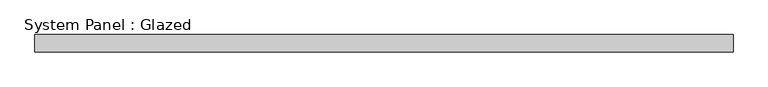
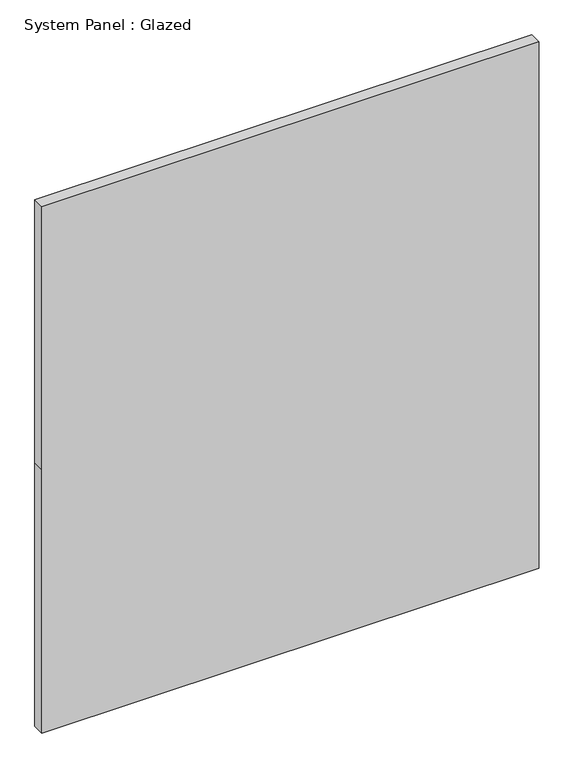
"""IFC4 building model written with IfcOpenShell, lengths in millimetres: plate geometry, System Panel : Glazed."""

from ifc_helpers import new_model, si_unit, frame, origin, place, context, project, spatial, polyline, outline, extrude, source, transform, mapped, element, save


def system_panel_glazed_abc00b7b(model_context):
    return source(origin(), model_context, "Body", "SweptSolid", [
        extrude(outline(polyline([(0.0, -516.255), (0.0, 516.255), (577.85, 516.255), (1155.7, 516.255), (1155.7, -516.255), (577.85, -516.255), (0.0, -516.255)])), frame((0.0, -44.45, 0.0), z_axis=(0.0, 1.0, 0.0), x_axis=(0.0, 0.0, 1.0)), (0.0, 0.0, 1.0), 25.4),
    ])


if __name__ == "__main__":
    model = new_model("IFC4")
    model_context = context("Model", 3, world=origin())
    ifc_project = project(units=[si_unit("LENGTHUNIT", "METRE", prefix="MILLI")], contexts=[model_context])
    site = spatial("IfcSite", under=ifc_project)
    building = spatial("IfcBuilding", under=site)
    placement = place(None, origin())
    system_panel_glazed_shape = system_panel_glazed_abc00b7b(model_context)
    element("IfcPlate", 1, ObjectType="System Panel : Glazed", at=placement, inside=building, context=model_context, shape_type="MappedRepresentation", body=[
        mapped(system_panel_glazed_shape, transform((0.0, 0.0, 0.0), x_axis=(1.0, 0.0, 0.0), y_axis=(0.0, 1.0, 0.0), z_axis=(0.0, 0.0, 1.0))),
    ])
    save(model, "model.ifc")
